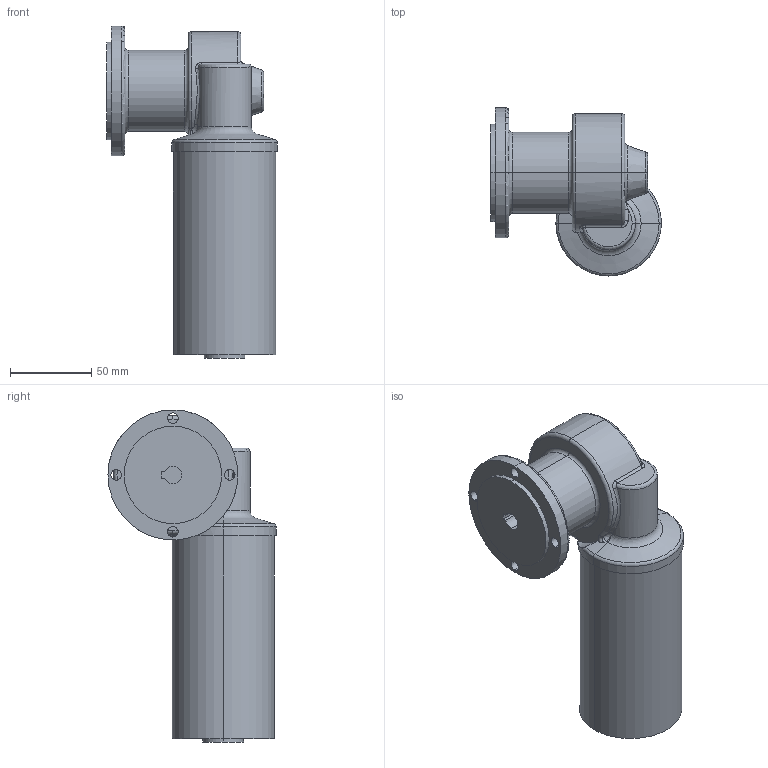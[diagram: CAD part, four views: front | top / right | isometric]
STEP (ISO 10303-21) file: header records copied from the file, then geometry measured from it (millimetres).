
FILE_DESCRIPTION (( 'STEP AP203' ), '1' );
FILE_NAME ('SN5FLHGP-93W.STEP', '2009-03-27T07:48:57', ( ' ' ), ( ' ' ), 'SwSTEP 2.0', 'SolidWorks 2009', '' );
FILE_SCHEMA (( 'CONFIG_CONTROL_DESIGN' ));
Length unit declared in the file: millimetre
Products named in the file (3): SN5FLH; 93W-GP; SN5FLHGP-93W
Assembly tree (2 placements, depth 2):
  SN5FLHGP-93W
    93W-GP
    SN5FLH
Bounding box: 105.2 x 103.5 x 204.5 mm (x, y, z)
Volume: 704903.9 mm3; surface area: 69764.4 mm2
Topology: 2 solids, 2 shells, 86 faces, 209 edges, 128 vertices
Faces by surface type: cylinder 31, torus 24, plane 15, bspline 11, cone 5
Entity records: 3633 total; most frequent: CARTESIAN_POINT 1321, DIRECTION 451, ORIENTED_EDGE 418, EDGE_CURVE 209, AXIS2_PLACEMENT_3D 202, VERTEX_POINT 128, CIRCLE 122, EDGE_LOOP 95
